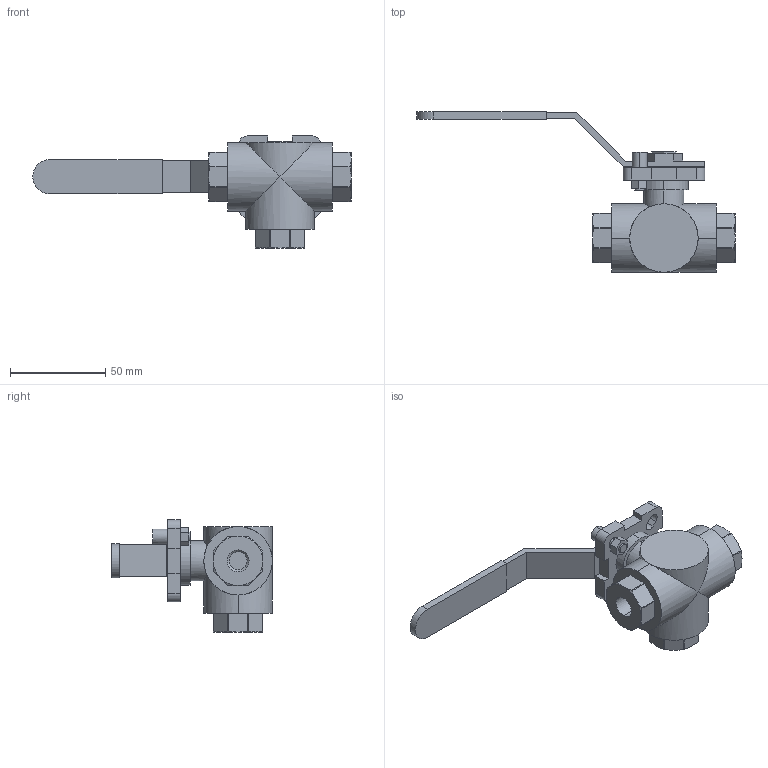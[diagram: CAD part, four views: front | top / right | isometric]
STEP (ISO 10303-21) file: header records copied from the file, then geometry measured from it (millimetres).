
FILE_DESCRIPTION (( 'STEP AP203' ), '1' );
FILE_NAME ('04.622I007IFVPB0.STEP', '2018-10-05T12:09:04', ( '' ), ( '' ), 'SwSTEP 2.0', 'SolidWorks 2014', '' );
FILE_SCHEMA (( 'CONFIG_CONTROL_DESIGN' ));
Length unit declared in the file: millimetre
Products named in the file (1): 04.622I007IFVPB0
Bounding box: 167.5 x 84.5 x 59 mm (x, y, z)
Volume: 108659.6 mm3; surface area: 27333.4 mm2
Topology: 1 solids, 1 shells, 206 faces, 526 edges, 335 vertices
Faces by surface type: plane 105, cylinder 71, cone 30
Entity records: 6526 total; most frequent: CARTESIAN_POINT 1436, ORIENTED_EDGE 1052, DIRECTION 1037, EDGE_CURVE 526, AXIS2_PLACEMENT_3D 366, VERTEX_POINT 335, VECTOR 305, LINE 305
